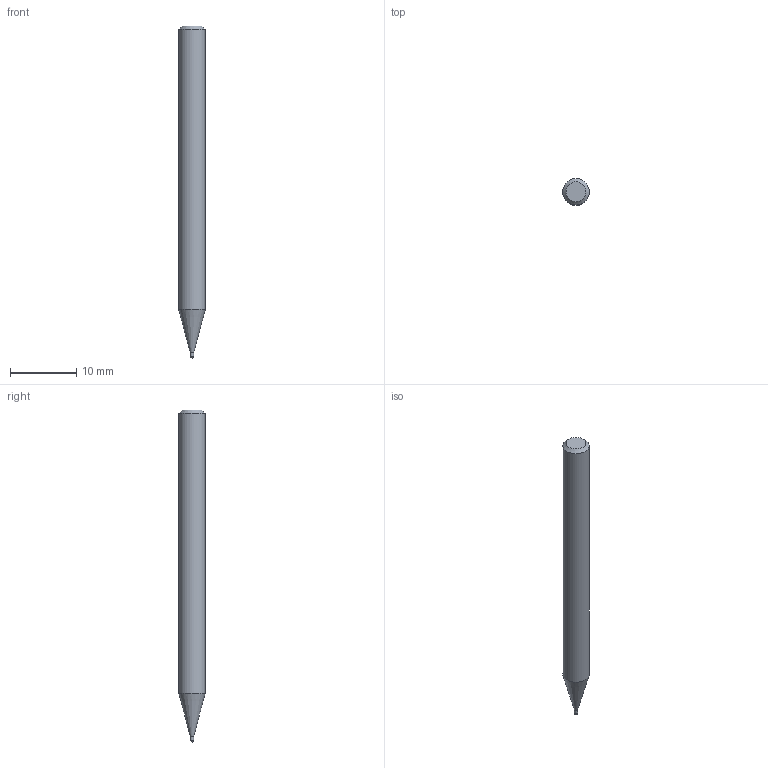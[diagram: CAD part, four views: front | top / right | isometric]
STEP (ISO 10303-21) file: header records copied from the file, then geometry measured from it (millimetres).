
FILE_DESCRIPTION((''),'2;1');
FILE_NAME('C:\Users\nsx150\AppData\Local\Temp\Mastercam 2021\J4S5TCIUH2\TEMP.step','2022-01-25T17:53:42',(''),(''),'STEP Write','Mastercam 2021 ... CNC Software, Inc.','');
FILE_SCHEMA(('AUTOMOTIVE_DESIGN'));
Length unit declared in the file: millimetre
Products named in the file (1): None
Bounding box: 4 x 4 x 50 mm (x, y, z)
Volume: 566.1 mm3; surface area: 594.2 mm2
Topology: 2 solids, 2 shells, 8 faces, 12 edges, 7 vertices
Faces by surface type: plane 3, cylinder 2, cone 2, sphere 1
Full cylindrical faces by diameter (mm): 0.5 x1, 4 x1
Entity records: 190 total; most frequent: DIRECTION 32, CARTESIAN_POINT 22, AXIS2_PLACEMENT_3D 16, ORIENTED_EDGE 12, EDGE_LOOP 12, STYLED_ITEM 11, ADVANCED_FACE 8, VERTEX_POINT 6
